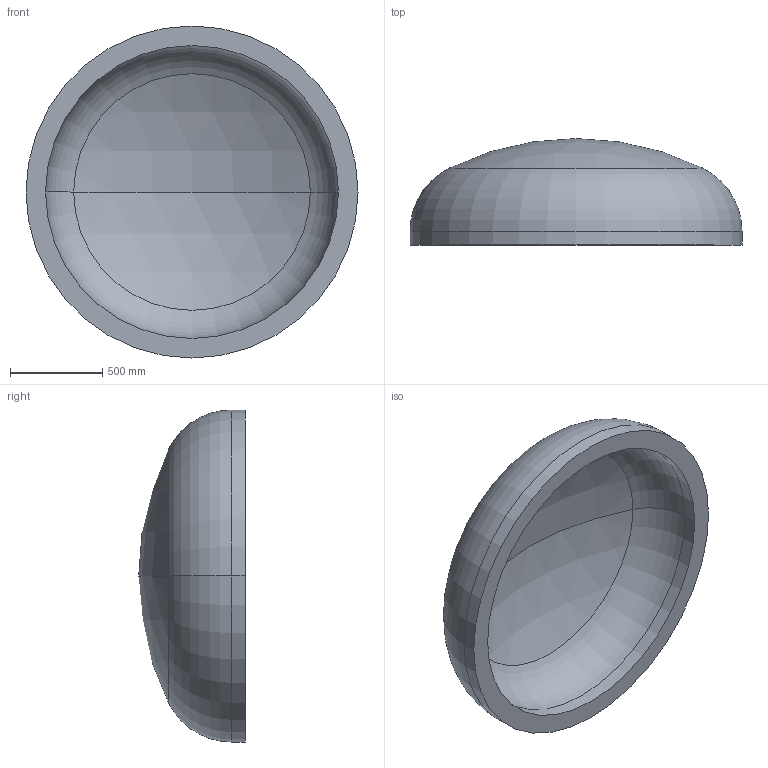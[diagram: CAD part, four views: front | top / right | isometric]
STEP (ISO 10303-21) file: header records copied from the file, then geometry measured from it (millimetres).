
FILE_DESCRIPTION (( 'STEP AP203' ), '1' );
FILE_NAME ('DIN 28013 Korbbogenform_-_Boden DIN 28013 - 1800 x 75 - I - s=106.step', '2016-07-01T12:46:41', ( '' ), ( '' ), 'SwSTEP 2.0', 'SolidWorks 2013', '' );
FILE_SCHEMA (( 'CONFIG_CONTROL_DESIGN' ));
Length unit declared in the file: millimetre
Products named in the file (1): DIN 28013 Korbbogenform_-_Boden DIN 28013 - 1800 x 75 - I - s=106
Bounding box: 1800 x 577.99 x 1800 mm (x, y, z)
Volume: 388283899.4 mm3; surface area: 7913759 mm2
Topology: 1 solids, 1 shells, 13 faces, 24 edges, 14 vertices
Faces by surface type: torus 4, cylinder 4, sphere 4, plane 1
Entity records: 407 total; most frequent: DIRECTION 72, CARTESIAN_POINT 52, ORIENTED_EDGE 48, AXIS2_PLACEMENT_3D 34, EDGE_CURVE 24, CIRCLE 20, EDGE_LOOP 14, VERTEX_POINT 14
